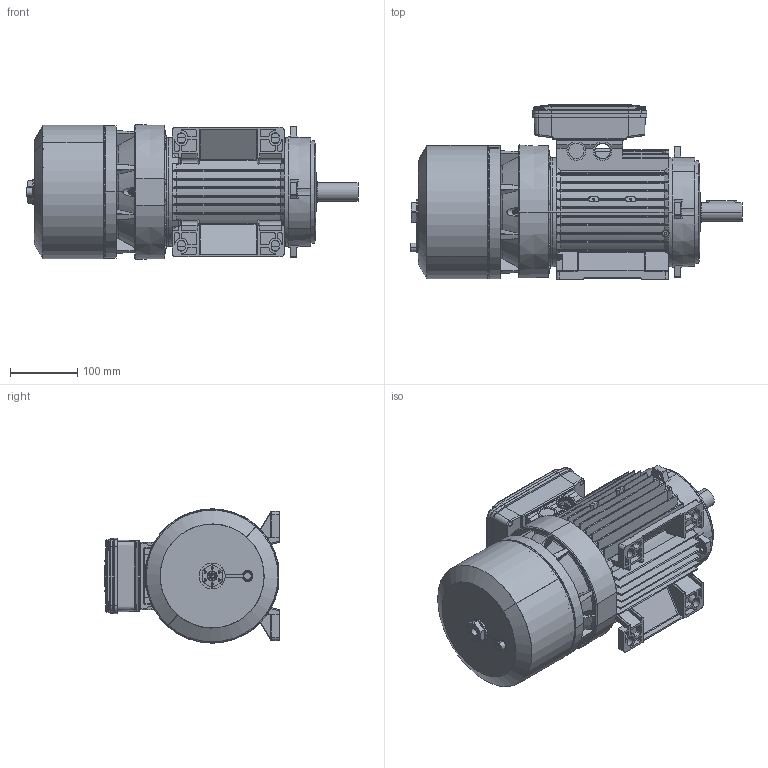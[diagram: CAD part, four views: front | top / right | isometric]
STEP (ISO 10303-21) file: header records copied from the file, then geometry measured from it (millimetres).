
FILE_DESCRIPTION (( 'STEP AP214' ), '1' );
FILE_NAME ('M02GA0011.STEP', '2018-11-26T16:33:49', ( '' ), ( '' ), 'SwSTEP 2.0', 'SolidWorks 2018', '' );
FILE_SCHEMA (( 'AUTOMOTIVE_DESIGN' ));
Length unit declared in the file: millimetre
Products named in the file (15): M02GA0011; Anello per Gruppo Freno 100 - DBAU0294; Scatola per Morsettiera Doppia 90-100-112 - Completa; Guarnizione Coperchio Semplice Scatola BA 90 100 112 - DDAL0094; Vite  a testa bombata M4x16; Coperchio per Scatola per Morsettiera Doppia 90-100-112; Scatola per Morsettiera Doppia 90-100-112; Vite a Testa Esagona con foro e tappo 71-112 - Modificata; Scudo Lato Comando B3 BA-BM 100 - DEAD0094; Chiavetta 100-112; Cuffia serie BA 100; Convogliatore con pista d''attrito P2 BA100-6 - DEAF0195; Scudo Lato Freno BA 100 P1 - DEAE0194; Albero BA 100; Carcassa 100 L B3
Assembly tree (17 placements, depth 3):
  M02GA0011
    Carcassa 100 L B3
    Albero BA 100
    Scudo Lato Freno BA 100 P1 - DEAE0194
    Convogliatore con pista d''attrito P2 BA100-6 - DEAF0195
    Cuffia serie BA 100
    Chiavetta 100-112
    Scudo Lato Comando B3 BA-BM 100 - DEAD0094
    Vite a Testa Esagona con foro e tappo 71-112 - Modificata
    Scatola per Morsettiera Doppia 90-100-112 - Completa
      Scatola per Morsettiera Doppia 90-100-112
      Coperchio per Scatola per Morsettiera Doppia 90-100-112
      Vite  a testa bombata M4x16  x4
      Guarnizione Coperchio Semplice Scatola BA 90 100 112 - DDAL0094
    Anello per Gruppo Freno 100 - DBAU0294
Bounding box: 494 x 260 x 199.95 mm (x, y, z)
Volume: 2269347.3 mm3; surface area: 1216253.5 mm2
Topology: 16 solids, 16 shells, 3265 faces, 8921 edges, 5681 vertices
Faces by surface type: cylinder 1174, plane 1139, torus 426, cone 325, bspline 189, sphere 12
Entity records: 117133 total; most frequent: CARTESIAN_POINT 39517, ORIENTED_EDGE 16942, DIRECTION 15163, EDGE_CURVE 8471, AXIS2_PLACEMENT_3D 5755, VERTEX_POINT 5453, LINE 3653, VECTOR 3653
